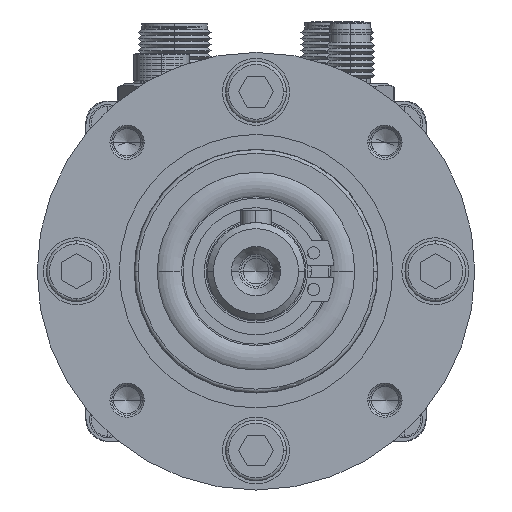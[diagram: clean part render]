
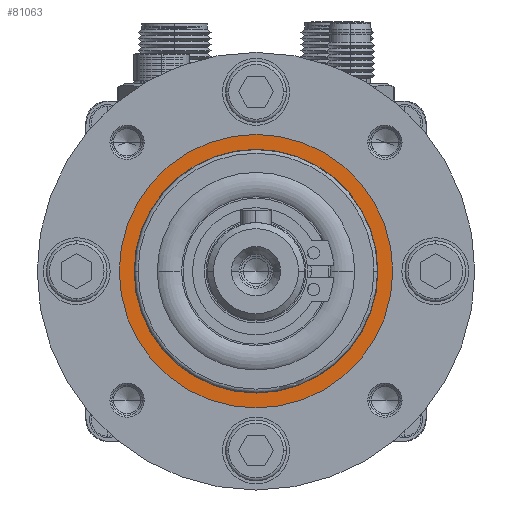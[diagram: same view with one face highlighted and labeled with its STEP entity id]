
A CAD part, left-side view. The second image highlights one B-rep face of the part: STEP entity #81063.
In plain terms, the highlighted planar face has unit normal (-1, 0, 0) as drawn and (1, 0, 0) by its records, which use the part's own axes.
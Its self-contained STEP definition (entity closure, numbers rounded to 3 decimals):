
#3551 = CARTESIAN_POINT ( 'NONE',  ( 38.6, 0., 0. ) ) ;
#7247 = ORIENTED_EDGE ( 'NONE', *, *, #7704, .T. ) ;
#7704 = EDGE_CURVE ( 'NONE', #42227, #63311, #81927, .T. ) ;
#8780 = VERTEX_POINT ( 'NONE', #12435 ) ;
#8848 = PLANE ( 'NONE',  #70819 ) ;
#12435 = CARTESIAN_POINT ( 'NONE',  ( 38.6, 0., 22.5 ) ) ;
#16634 = DIRECTION ( 'NONE',  ( -1., 0., 0. ) ) ;
#20592 = AXIS2_PLACEMENT_3D ( 'NONE', #58614, #77682, #68539 ) ;
#22219 = DIRECTION ( 'NONE',  ( 0., 0., 1. ) ) ;
#25344 = AXIS2_PLACEMENT_3D ( 'NONE', #115653, #106884, #41754 ) ;
#26172 = DIRECTION ( 'NONE',  ( 0., 0., 1. ) ) ;
#26308 = CARTESIAN_POINT ( 'NONE',  ( 38.6, 0., 0. ) ) ;
#31416 = DIRECTION ( 'NONE',  ( -1., 0., 0. ) ) ;
#31457 = VERTEX_POINT ( 'NONE', #55562 ) ;
#33132 = EDGE_CURVE ( 'NONE', #63311, #42227, #83836, .T. ) ;
#35087 = DIRECTION ( 'NONE',  ( 0., 0., -1. ) ) ;
#36119 = ORIENTED_EDGE ( 'NONE', *, *, #33132, .T. ) ;
#40193 = EDGE_LOOP ( 'NONE', ( #36119, #7247 ) ) ;
#41754 = DIRECTION ( 'NONE',  ( 0., 0., -1. ) ) ;
#42227 = VERTEX_POINT ( 'NONE', #102480 ) ;
#44030 = AXIS2_PLACEMENT_3D ( 'NONE', #53532, #16634, #26172 ) ;
#44585 = DIRECTION ( 'NONE',  ( 1., 0., 0. ) ) ;
#53532 = CARTESIAN_POINT ( 'NONE',  ( 38.6, 0., 0. ) ) ;
#55562 = CARTESIAN_POINT ( 'NONE',  ( 38.6, 0., -22.5 ) ) ;
#56246 = CIRCLE ( 'NONE', #20592, 22.5 ) ;
#58614 = CARTESIAN_POINT ( 'NONE',  ( 38.6, 0., 0. ) ) ;
#63160 = CIRCLE ( 'NONE', #25344, 22.5 ) ;
#63311 = VERTEX_POINT ( 'NONE', #110705 ) ;
#64671 = FACE_OUTER_BOUND ( 'NONE', #82777, .T. ) ;
#65330 = EDGE_CURVE ( 'NONE', #8780, #31457, #56246, .T. ) ;
#68539 = DIRECTION ( 'NONE',  ( 0., 0., -1. ) ) ;
#70819 = AXIS2_PLACEMENT_3D ( 'NONE', #26308, #44585, #35087 ) ;
#77682 = DIRECTION ( 'NONE',  ( -1., 0., 0. ) ) ;
#81063 = ADVANCED_FACE ( 'NONE', ( #64671, #87513 ), #8848, .T. ) ;
#81927 = CIRCLE ( 'NONE', #44030, 20.05 ) ;
#82777 = EDGE_LOOP ( 'NONE', ( #110937, #106688 ) ) ;
#83836 = CIRCLE ( 'NONE', #85675, 20.05 ) ;
#85675 = AXIS2_PLACEMENT_3D ( 'NONE', #3551, #31416, #22219 ) ;
#87513 = FACE_BOUND ( 'NONE', #40193, .T. ) ;
#101072 = EDGE_CURVE ( 'NONE', #31457, #8780, #63160, .T. ) ;
#102480 = CARTESIAN_POINT ( 'NONE',  ( 38.6, 0., -20.05 ) ) ;
#106688 = ORIENTED_EDGE ( 'NONE', *, *, #65330, .F. ) ;
#106884 = DIRECTION ( 'NONE',  ( -1., 0., 0. ) ) ;
#110705 = CARTESIAN_POINT ( 'NONE',  ( 38.6, 0., 20.05 ) ) ;
#110937 = ORIENTED_EDGE ( 'NONE', *, *, #101072, .F. ) ;
#115653 = CARTESIAN_POINT ( 'NONE',  ( 38.6, 0., 0. ) ) ;
